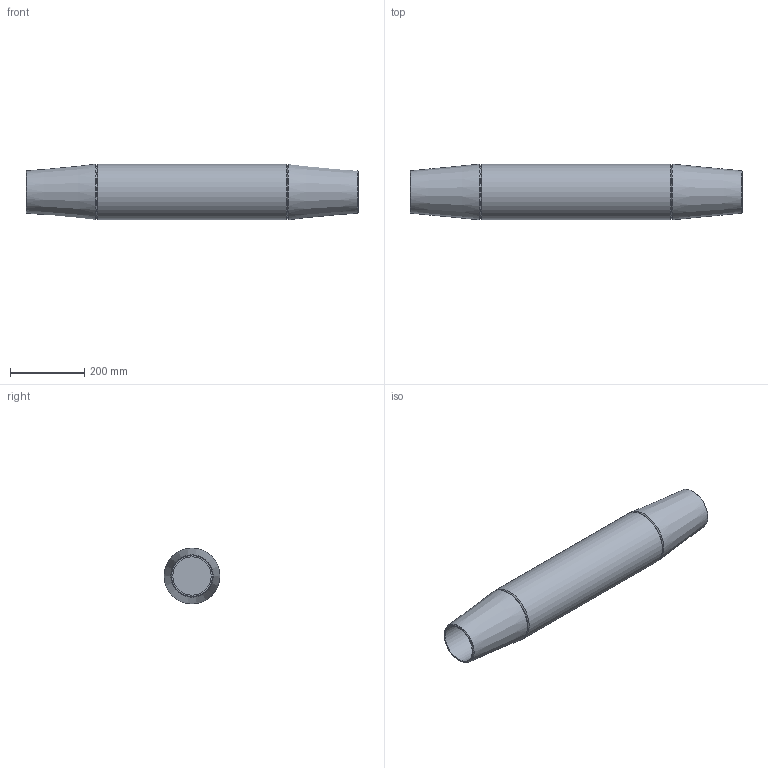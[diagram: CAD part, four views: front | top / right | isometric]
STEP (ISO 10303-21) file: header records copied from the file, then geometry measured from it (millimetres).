
FILE_DESCRIPTION(/* description */ (''),/* implementation_level */ '2;1');
FILE_NAME(/* name */ 'G:\Engineering\700 CAD\Internet-PX-1-step-igs-dxf\520-MUF-Arbeitsdateien\520-100-MUF.stp',/* time_stamp */ '2020-06-30T13:24:38+02:00',/* author */ ('schwarz'),/* organization */ (''),/* preprocessor_version */ 'ST-DEVELOPER v16.1',/* originating_system */ 'Autodesk Inventor 2016',/* authorisation */ '');
FILE_SCHEMA (('AUTOMOTIVE_DESIGN { 1 0 10303 214 3 1 1 }'));
Length unit declared in the file: centimetre
Products named in the file (1): Zusammenbau Muffe 520 100 Kunde
Bounding box: 892 x 150 x 150 mm (x, y, z)
Volume: 11915299.9 mm3; surface area: 511275.2 mm2
Topology: 1 solids, 1 shells, 15 faces, 25 edges, 14 vertices
Faces by surface type: cone 8, plane 4, cylinder 3
Full cylindrical faces by diameter (mm): 103 x2, 150 x1
Entity records: 347 total; most frequent: DIRECTION 60, CARTESIAN_POINT 44, AXIS2_PLACEMENT_3D 30, EDGE_LOOP 28, ORIENTED_EDGE 28, STYLED_ITEM 16, FACE_OUTER_BOUND 15, ADVANCED_FACE 15
